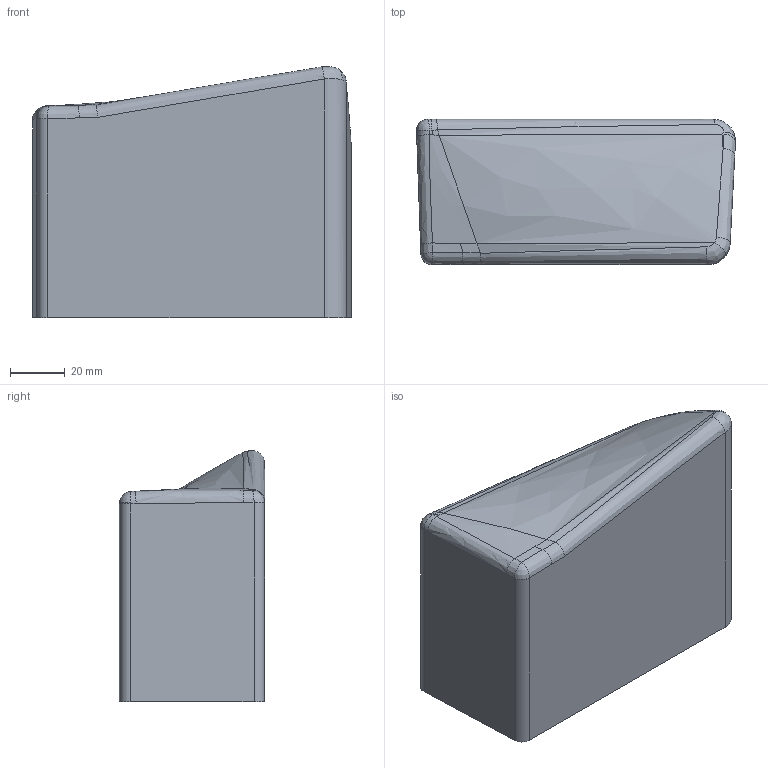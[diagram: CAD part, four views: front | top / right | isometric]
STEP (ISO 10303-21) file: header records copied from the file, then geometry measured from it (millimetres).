
FILE_DESCRIPTION(('CATIA V5 STEP Exchange','CAx-IF Rec.Pracs.--- Model Styling and Organization---1.5--- 2016-08-15','CAx-IF Rec.Pracs.---Supplemental Geometry---1.0---2011-11-01','CAx-IF Rec.Pracs.--- Composite Materials ---1.1---2010-07-15','CAx-IF Rec.Pracs.---External References---2.1---2005-01-19'),'2;1');
FILE_NAME('E:\WAT\Sprezarka\121_00_00_Tlocznik1\Tlocznik1_KPL\Tlocznik1_stp\121_03_51_Stempel.stp','2023-08-01T08:49:44+00:00',('none'),('none'),'CATIA Version 5-6 Release 2022 SP3','CATIA V5 STEP AP214 v2','none');
FILE_SCHEMA(('AUTOMOTIVE_DESIGN { 1 0 10303 214 1 1 1 1 }'));
Length unit declared in the file: millimetre
Products named in the file (1): 121_03_51_Stempel
Bounding box: 116.41 x 53 x 91.65 mm (x, y, z)
Volume: 466866.8 mm3; surface area: 39044.1 mm2
Topology: 1 solids, 1 shells, 53 faces, 133 edges, 77 vertices
Faces by surface type: bspline 28, cylinder 12, cone 8, plane 5
Entity records: 4970 total; most frequent: CARTESIAN_POINT 3925, ORIENTED_EDGE 238, EDGE_CURVE 119, DIRECTION 88, VERTEX_POINT 72, B_SPLINE_CURVE_WITH_KNOTS 69, EDGE_LOOP 57, ADVANCED_FACE 53
